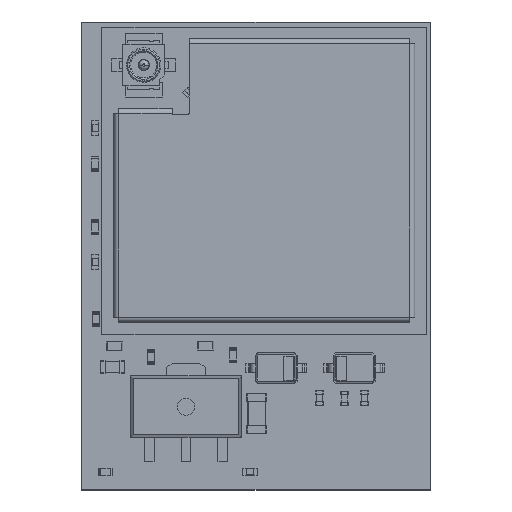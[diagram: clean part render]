
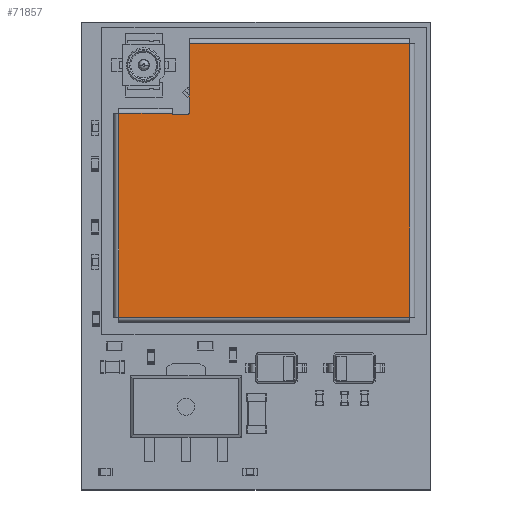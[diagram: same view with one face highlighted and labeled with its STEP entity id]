
A CAD part, top view. The second image highlights one B-rep face of the part: STEP entity #71857.
In plain terms, the highlighted planar face has unit normal (0, 0, 1).
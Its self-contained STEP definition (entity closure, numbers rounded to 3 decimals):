
#71395 = VERTEX_POINT('',#71396);
#71396 = CARTESIAN_POINT('',(3.555,9.03,2.4));
#71402 = EDGE_CURVE('',#71403,#71395,#71405,.T.);
#71403 = VERTEX_POINT('',#71404);
#71404 = CARTESIAN_POINT('',(3.555,11.83,2.4));
#71405 = LINE('',#71406,#71407);
#71406 = CARTESIAN_POINT('',(3.555,-1.52,2.4));
#71407 = VECTOR('',#71408,1.);
#71408 = DIRECTION('',(0.,-1.,0.));
#71857 = ADVANCED_FACE('',(#71858),#71925,.F.);
#71858 = FACE_BOUND('',#71859,.T.);
#71859 = EDGE_LOOP('',(#71860,#71861,#71870,#71878,#71887,#71895,#71903,
    #71911,#71919));
#71860 = ORIENTED_EDGE('',*,*,#71402,.T.);
#71861 = ORIENTED_EDGE('',*,*,#71862,.T.);
#71862 = EDGE_CURVE('',#71395,#71863,#71865,.T.);
#71863 = VERTEX_POINT('',#71864);
#71864 = CARTESIAN_POINT('',(3.455,8.93,2.4));
#71865 = CIRCLE('',#71866,0.1);
#71866 = AXIS2_PLACEMENT_3D('',#71867,#71868,#71869);
#71867 = CARTESIAN_POINT('',(3.455,9.03,2.4));
#71868 = DIRECTION('',(0.,0.,-1.));
#71869 = DIRECTION('',(0.,1.,0.));
#71870 = ORIENTED_EDGE('',*,*,#71871,.F.);
#71871 = EDGE_CURVE('',#71872,#71863,#71874,.T.);
#71872 = VERTEX_POINT('',#71873);
#71873 = CARTESIAN_POINT('',(2.955,8.93,2.4));
#71874 = LINE('',#71875,#71876);
#71875 = CARTESIAN_POINT('',(2.535,8.93,2.4));
#71876 = VECTOR('',#71877,1.);
#71877 = DIRECTION('',(1.,0.,0.));
#71878 = ORIENTED_EDGE('',*,*,#71879,.T.);
#71879 = EDGE_CURVE('',#71872,#71880,#71882,.T.);
#71880 = VERTEX_POINT('',#71881);
#71881 = CARTESIAN_POINT('',(2.868,8.98,2.4));
#71882 = CIRCLE('',#71883,0.1);
#71883 = AXIS2_PLACEMENT_3D('',#71884,#71885,#71886);
#71884 = CARTESIAN_POINT('',(2.955,9.03,2.4));
#71885 = DIRECTION('',(0.,0.,-1.));
#71886 = DIRECTION('',(0.,1.,0.));
#71887 = ORIENTED_EDGE('',*,*,#71888,.T.);
#71888 = EDGE_CURVE('',#71880,#71889,#71891,.T.);
#71889 = VERTEX_POINT('',#71890);
#71890 = CARTESIAN_POINT('',(0.68,8.98,2.4));
#71891 = LINE('',#71892,#71893);
#71892 = CARTESIAN_POINT('',(0.48,8.98,2.4));
#71893 = VECTOR('',#71894,1.);
#71894 = DIRECTION('',(-1.,0.,0.));
#71895 = ORIENTED_EDGE('',*,*,#71896,.T.);
#71896 = EDGE_CURVE('',#71889,#71897,#71899,.T.);
#71897 = VERTEX_POINT('',#71898);
#71898 = CARTESIAN_POINT('',(0.68,0.68,2.4));
#71899 = LINE('',#71900,#71901);
#71900 = CARTESIAN_POINT('',(0.68,-1.52,2.4));
#71901 = VECTOR('',#71902,1.);
#71902 = DIRECTION('',(0.,-1.,0.));
#71903 = ORIENTED_EDGE('',*,*,#71904,.T.);
#71904 = EDGE_CURVE('',#71897,#71905,#71907,.T.);
#71905 = VERTEX_POINT('',#71906);
#71906 = CARTESIAN_POINT('',(12.53,0.68,2.4));
#71907 = LINE('',#71908,#71909);
#71908 = CARTESIAN_POINT('',(0.48,0.68,2.4));
#71909 = VECTOR('',#71910,1.);
#71910 = DIRECTION('',(1.,0.,0.));
#71911 = ORIENTED_EDGE('',*,*,#71912,.T.);
#71912 = EDGE_CURVE('',#71905,#71913,#71915,.T.);
#71913 = VERTEX_POINT('',#71914);
#71914 = CARTESIAN_POINT('',(12.53,11.83,2.4));
#71915 = LINE('',#71916,#71917);
#71916 = CARTESIAN_POINT('',(12.53,-1.52,2.4));
#71917 = VECTOR('',#71918,1.);
#71918 = DIRECTION('',(0.,1.,0.));
#71919 = ORIENTED_EDGE('',*,*,#71920,.T.);
#71920 = EDGE_CURVE('',#71913,#71403,#71921,.T.);
#71921 = LINE('',#71922,#71923);
#71922 = CARTESIAN_POINT('',(0.48,11.83,2.4));
#71923 = VECTOR('',#71924,1.);
#71924 = DIRECTION('',(-1.,0.,0.));
#71925 = PLANE('',#71926);
#71926 = AXIS2_PLACEMENT_3D('',#71927,#71928,#71929);
#71927 = CARTESIAN_POINT('',(0.48,-1.52,2.4));
#71928 = DIRECTION('',(0.,0.,-1.));
#71929 = DIRECTION('',(0.,1.,0.));
